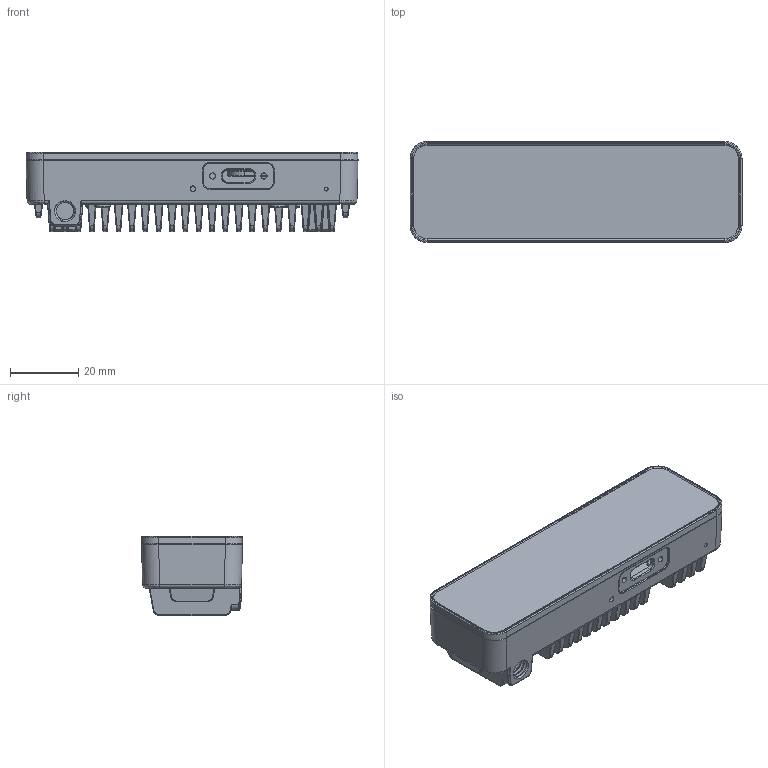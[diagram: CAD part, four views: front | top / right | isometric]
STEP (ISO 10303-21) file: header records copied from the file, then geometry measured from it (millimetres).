
FILE_DESCRIPTION((''),'2;1');
FILE_NAME('010-00009-02_ASM','2022-06-03T23:19:55',('TWSung'),(''),'CREO PARAMETRIC BY PTC INC, 2020154','CREO PARAMETRIC BY PTC INC, 2020154','');
FILE_SCHEMA(('CONFIG_CONTROL_DESIGN'));
Products named in the file (11): 606-00013-02; 606-00014-02; D-LR-LENS-ADHESIVE; D-LR-GLASS-LENS; 609-00008_ASM; 611-00019; 611-00018; 612-00002; 602-00007; AW_OAK-D-S2; 010-00009-02_ASM
Assembly tree (14 placements, depth 3):
  010-00009-02_ASM
    606-00013-02
    606-00014-02
    609-00008_ASM
      D-LR-LENS-ADHESIVE
      D-LR-GLASS-LENS
    611-00019  x2
    611-00018
    612-00002
    602-00007  x4
    AW_OAK-D-S2
Bounding box: 97 x 29.5 x 23.1 mm (x, y, z)
Volume: 29215 mm3; surface area: 38732.9 mm2
Topology: 12 solids, 12 shells, 2067 faces, 5173 edges, 3182 vertices
Faces by surface type: cylinder 892, bspline 446, plane 437, cone 157, torus 117, sphere 10, extrusion 8
Entity records: 106143 total; most frequent: CARTESIAN_POINT 69379, ORIENTED_EDGE 8294, DIRECTION 6603, EDGE_CURVE 4147, VERTEX_POINT 2502, AXIS2_PLACEMENT_3D 2436, EDGE_LOOP 1789, VECTOR 1731
